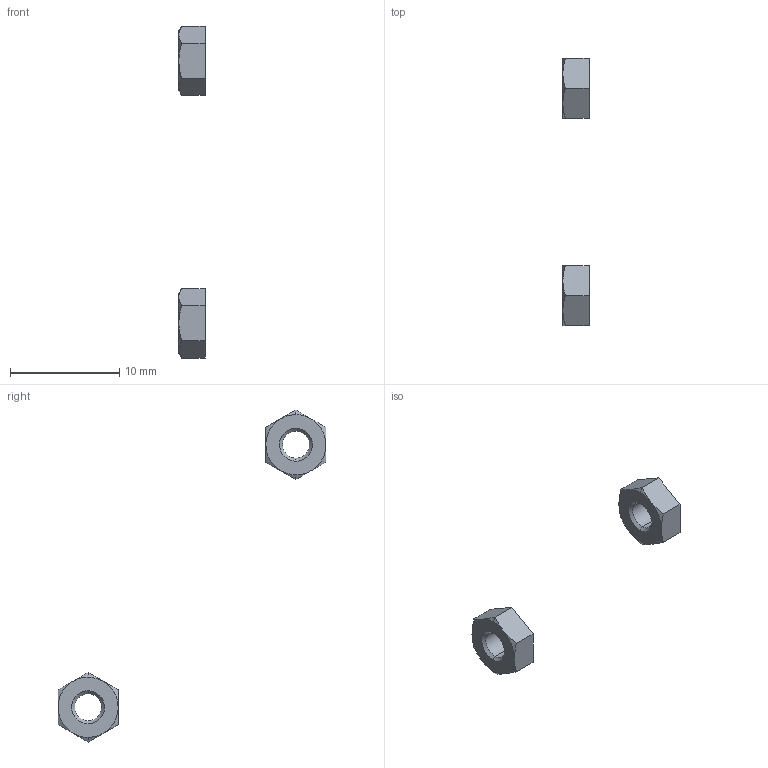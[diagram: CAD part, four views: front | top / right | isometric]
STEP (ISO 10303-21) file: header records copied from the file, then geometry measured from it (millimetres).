
FILE_DESCRIPTION(/* description */ (''),/* implementation_level */ '2;1');
FILE_NAME(/* name */ '1.frame-bottom#1.8#LBNR3',/* time_stamp */ '2014-12-01T20:11:33+01:00',/* author */ (''),/* organization */ (''),/* preprocessor_version */ 'ST-DEVELOPER v14',/* originating_system */ '',/* authorisation */ '');
FILE_SCHEMA (('AUTOMOTIVE_DESIGN'));
Length unit declared in the file: millimetre
Products named in the file (1): Document
Bounding box: 2.4 x 24.5 x 30.35 mm (x, y, z)
Volume: 101.4 mm3; surface area: 207.4 mm2
Topology: 2 solids, 2 shells, 44 faces, 96 edges, 56 vertices
Faces by surface type: bspline 28, plane 16
Entity records: 2689 total; most frequent: CARTESIAN_POINT 1449, ORIENTED_EDGE 192, PCURVE 192, DEFINITIONAL_REPRESENTATION 192, B_SPLINE_CURVE_WITH_KNOTS 184, SURFACE_CURVE 96, EDGE_CURVE 96, VERTEX_POINT 56
